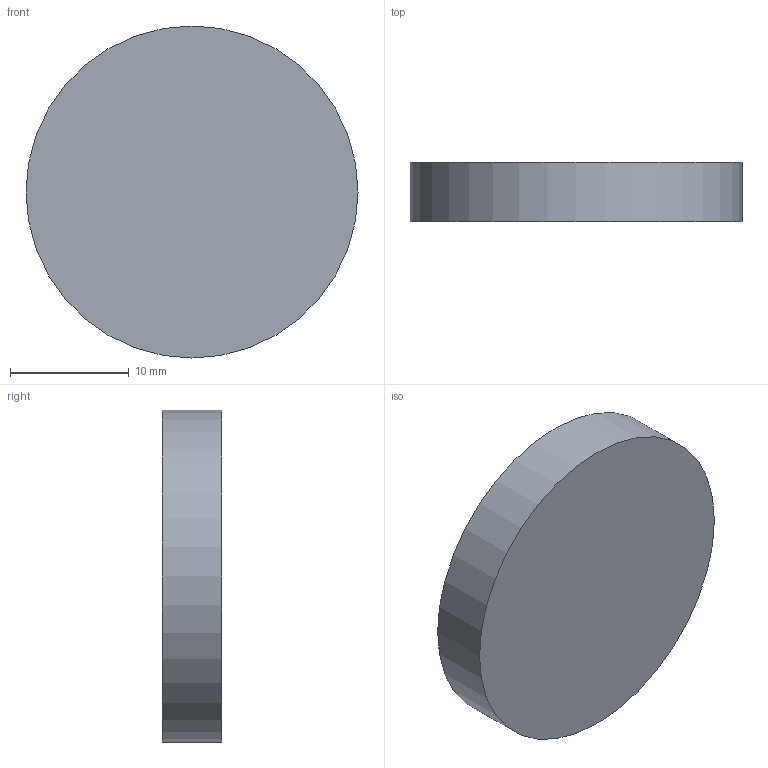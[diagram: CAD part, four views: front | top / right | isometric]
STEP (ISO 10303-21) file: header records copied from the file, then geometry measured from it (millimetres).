
FILE_DESCRIPTION(('Open CASCADE Model'),'2;1');
FILE_NAME('Open CASCADE Shape Model','2026-11-23T18:09:59',('Author'),( 'Open CASCADE'),'Open CASCADE STEP processor 8.0','build123d', 'Unknown');
FILE_SCHEMA(('AUTOMOTIVE_DESIGN { 1 0 10303 214 1 1 1 1 }'));
Length unit declared in the file: millimetre
Products named in the file (2): =>[0:1:1:2]; SOLID
Assembly tree (1 placements, depth 2):
  =>[0:1:1:2]
    SOLID
Bounding box: 28 x 5 x 28 mm (x, y, z)
Volume: 3078.8 mm3; surface area: 1671.3 mm2
Topology: 1 solids, 1 shells, 3 faces, 3 edges, 2 vertices
Faces by surface type: plane 2, cylinder 1
Full cylindrical faces by diameter (mm): 28 x1
Entity records: 126 total; most frequent: DIRECTION 21, CARTESIAN_POINT 16, AXIS2_PLACEMENT_3D 7, ORIENTED_EDGE 6, PCURVE 6, DEFINITIONAL_REPRESENTATION 6, LINE 5, VECTOR 5
